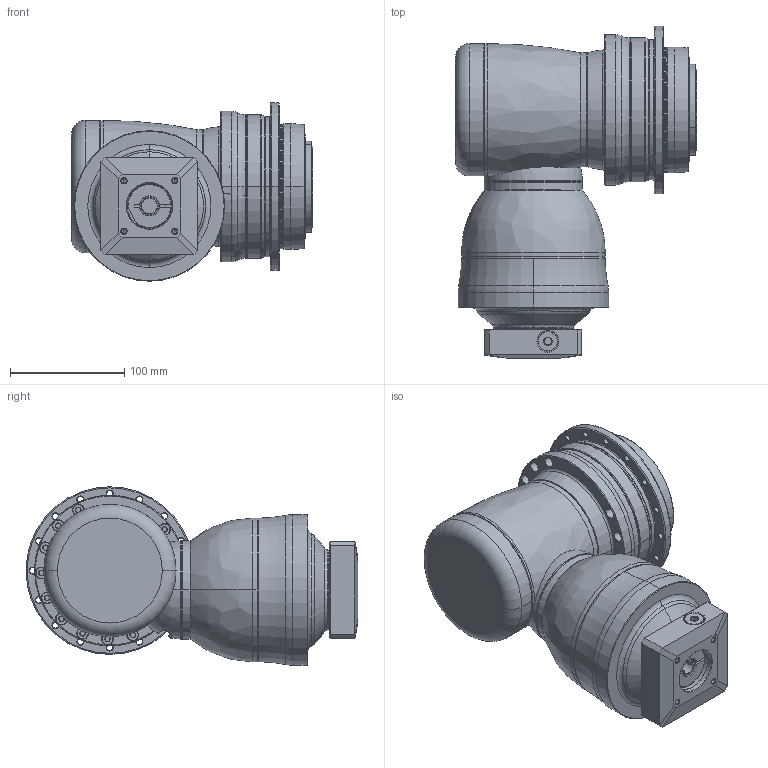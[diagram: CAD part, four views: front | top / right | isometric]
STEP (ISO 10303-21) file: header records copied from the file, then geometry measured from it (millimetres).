
FILE_DESCRIPTION((''),'2;1');
FILE_NAME('AHKB110_3ST_11-P0409310101_ASM','2016-12-12T',('d01943'),(''),'PRO/ENGINEER BY PARAMETRIC TECHNOLOGY CORPORATION, 2008410','PRO/ENGINEER BY PARAMETRIC TECHNOLOGY CORPORATION, 2008410','');
FILE_SCHEMA(('CONFIG_CONTROL_DESIGN'));
Length unit declared in the file: millimetre
Products named in the file (12): P1008400002; P1802400011; P0278400003; P0359400002; P1315400001; P1007400001; P1317400001; P0409310101; P0503300006; P0912301001; 21711412017; AHKB110_3ST_11-P0409310101_ASM
Assembly tree (11 placements, depth 2):
  AHKB110_3ST_11-P0409310101_ASM
    P1008400002
    P1802400011
    P0278400003
    P0359400002
    P1315400001
    P1007400001
    P1317400001
    P0409310101
    P0503300006
    P0912301001
    21711412017
Bounding box: 211.3 x 291 x 156.5 mm (x, y, z)
Volume: 2609850.1 mm3; surface area: 411723.4 mm2
Topology: 12 solids, 12 shells, 1099 faces, 2450 edges, 1408 vertices
Faces by surface type: cylinder 400, cone 378, plane 149, torus 128, bspline 42, sphere 2
Entity records: 35795 total; most frequent: CARTESIAN_POINT 10976, DIRECTION 5706, ORIENTED_EDGE 4704, AXIS2_PLACEMENT_3D 2429, EDGE_CURVE 2352, VERTEX_POINT 1408, CIRCLE 1349, EDGE_LOOP 1310
